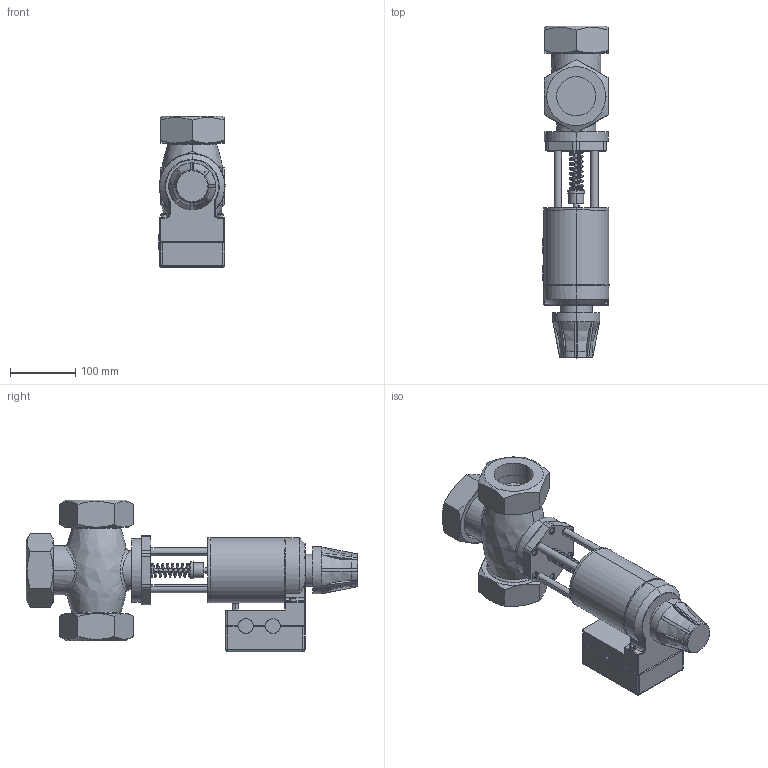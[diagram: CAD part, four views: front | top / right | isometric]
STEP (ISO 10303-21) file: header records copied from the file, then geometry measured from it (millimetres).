
FILE_DESCRIPTION((''),'2;1');
FILE_NAME('000295.stp','2006-10-04T16:18:58',(''),(''),'Mechanical Desktop 2006','Mechanical Desktop 2006',', , ');
FILE_SCHEMA(('AUTOMOTIVE_DESIGN { 1 2 10303 214 0 1 1 1 }'));
Length unit declared in the file: millimetre
Products named in the file (2): Product; RM_SDB
Bounding box: 101.6 x 510 x 233.37 mm (x, y, z)
Volume: 4140282.6 mm3; surface area: 442046.4 mm2
Topology: 54 solids, 54 shells, 663 faces, 1523 edges, 970 vertices
Faces by surface type: plane 239, cylinder 228, bspline 92, torus 58, cone 38, sphere 8
Entity records: 21185 total; most frequent: CARTESIAN_POINT 5949, DIRECTION 3329, ORIENTED_EDGE 3022, EDGE_CURVE 1511, AXIS2_PLACEMENT_3D 1356, VERTEX_POINT 970, CIRCLE 743, EDGE_LOOP 683
